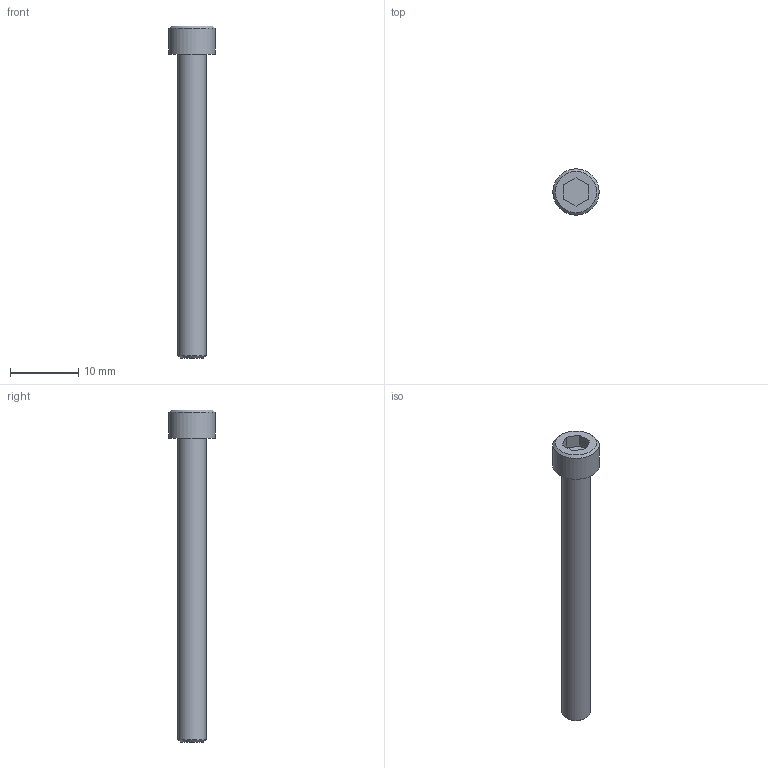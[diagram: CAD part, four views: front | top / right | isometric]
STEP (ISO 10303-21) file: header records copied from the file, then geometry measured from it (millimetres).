
FILE_DESCRIPTION((''),'2;1');
FILE_NAME('C:\Users\Stan\Desktop\import\SHCS 8-32 UNCx1.75.ipt.step','2011-08-18T17:45:35',(''),(''),'Autodesk Inventor 2012','Autodesk Inventor 2012','');
FILE_SCHEMA(('AUTOMOTIVE_DESIGN { 1 0 10303 214 1 1 1 1 }'));
Length unit declared in the file: inch
Products named in the file (1): SHCS 8-32 UNCx1.75
Bounding box: 6.76 x 6.76 x 48.56 mm (x, y, z)
Volume: 729.5 mm3; surface area: 757.5 mm2
Topology: 1 solids, 1 shells, 14 faces, 28 edges, 18 vertices
Faces by surface type: plane 10, cone 2, cylinder 2
Full cylindrical faces by diameter (mm): 4.166 x1, 6.756 x1
Entity records: 391 total; most frequent: DIRECTION 60, CARTESIAN_POINT 57, ORIENTED_EDGE 48, EDGE_CURVE 24, AXIS2_PLACEMENT_3D 21, EDGE_LOOP 20, VERTEX_POINT 18, VECTOR 18
